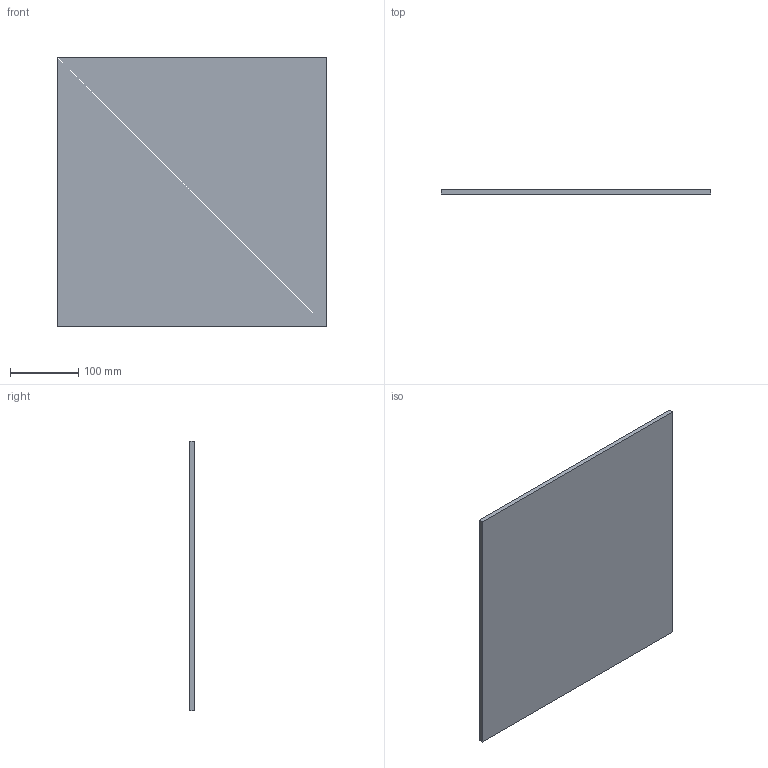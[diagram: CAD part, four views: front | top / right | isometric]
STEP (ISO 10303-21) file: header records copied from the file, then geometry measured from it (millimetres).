
FILE_DESCRIPTION (( 'STEP AP214' ), '1' );
FILE_NAME ('R42_396x396x7.STEP', '2016-02-08T17:14:44', ( '' ), ( '' ), 'SwSTEP 2.0', 'SolidWorks 2014', '' );
FILE_SCHEMA (( 'AUTOMOTIVE_DESIGN' ));
Length unit declared in the file: millimetre
Products named in the file (1): R42_396x396x7
Bounding box: 394 x 7 x 394 mm (x, y, z)
Volume: 1086652 mm3; surface area: 321504 mm2
Topology: 1 solids, 1 shells, 6 faces, 12 edges, 8 vertices
Faces by surface type: plane 6
Entity records: 190 total; most frequent: CARTESIAN_POINT 27, DIRECTION 26, ORIENTED_EDGE 24, LINE 12, EDGE_CURVE 12, VECTOR 12, VERTEX_POINT 8, AXIS2_PLACEMENT_3D 7
